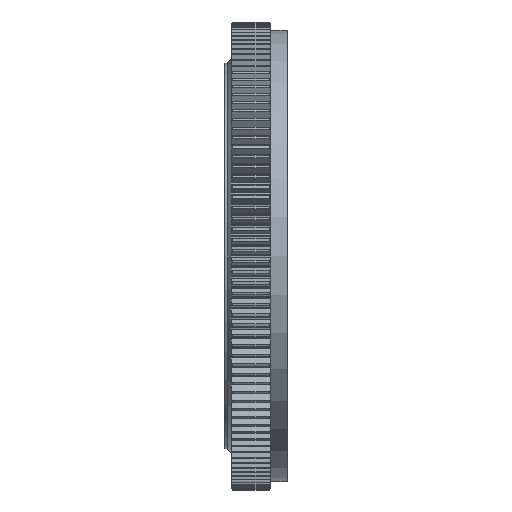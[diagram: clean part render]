
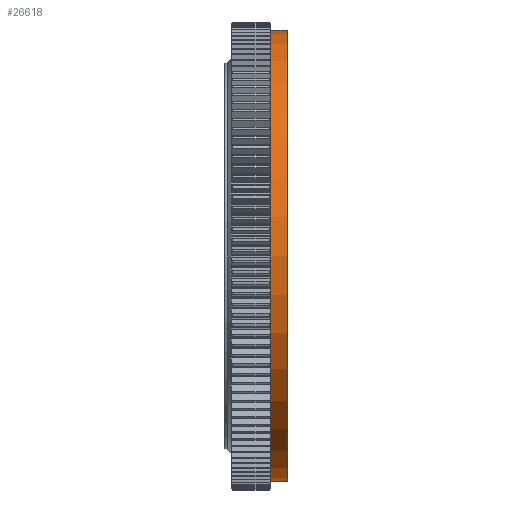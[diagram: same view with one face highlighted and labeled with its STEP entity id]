
A CAD part, left-side view. The second image highlights one B-rep face of the part: STEP entity #26618.
In plain terms, the highlighted cylindrical face has radius 335 mm (diameter 670 mm), a partial arc.
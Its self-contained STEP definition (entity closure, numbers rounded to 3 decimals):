
#2948 = AXIS2_PLACEMENT_3D ( 'NONE', #20541, #37821, #38031 ) ;
#4599 = EDGE_CURVE ( 'NONE', #31701, #36656, #34541, .T. ) ;
#6017 = EDGE_CURVE ( 'NONE', #28935, #17416, #19986, .T. ) ;
#7219 = EDGE_LOOP ( 'NONE', ( #35738, #9763, #30871, #33738 ) ) ;
#9763 = ORIENTED_EDGE ( 'NONE', *, *, #19012, .T. ) ;
#10205 = FACE_OUTER_BOUND ( 'NONE', #7219, .T. ) ;
#10503 = EDGE_CURVE ( 'NONE', #17416, #36656, #29810, .T. ) ;
#12249 = CARTESIAN_POINT ( 'NONE',  ( 0., -128.951, 0. ) ) ;
#17416 = VERTEX_POINT ( 'NONE', #32819 ) ;
#19012 = EDGE_CURVE ( 'NONE', #28935, #31701, #29518, .T. ) ;
#19986 = LINE ( 'NONE', #43566, #28844 ) ;
#20399 = DIRECTION ( 'NONE',  ( 0., -1., 0. ) ) ;
#20541 = CARTESIAN_POINT ( 'NONE',  ( 0., 0., 0. ) ) ;
#24551 = CYLINDRICAL_SURFACE ( 'NONE', #2948, 335. ) ;
#26618 = ADVANCED_FACE ( 'NONE', ( #10205 ), #24551, .T. ) ;
#28829 = DIRECTION ( 'NONE',  ( 0., -1., 0. ) ) ;
#28844 = VECTOR ( 'NONE', #32999, 1000. ) ;
#28935 = VERTEX_POINT ( 'NONE', #39674 ) ;
#29518 = CIRCLE ( 'NONE', #30971, 335. ) ;
#29810 = CIRCLE ( 'NONE', #35561, 335. ) ;
#30871 = ORIENTED_EDGE ( 'NONE', *, *, #4599, .T. ) ;
#30971 = AXIS2_PLACEMENT_3D ( 'NONE', #38042, #28829, #31968 ) ;
#31701 = VERTEX_POINT ( 'NONE', #32604 ) ;
#31968 = DIRECTION ( 'NONE',  ( 0., 0., -1. ) ) ;
#32604 = CARTESIAN_POINT ( 'NONE',  ( 0., -103.951, -335. ) ) ;
#32819 = CARTESIAN_POINT ( 'NONE',  ( 0., -128.951, 335. ) ) ;
#32999 = DIRECTION ( 'NONE',  ( 0., -1., 0. ) ) ;
#33738 = ORIENTED_EDGE ( 'NONE', *, *, #10503, .F. ) ;
#34541 = LINE ( 'NONE', #37442, #36616 ) ;
#35561 = AXIS2_PLACEMENT_3D ( 'NONE', #12249, #43007, #39407 ) ;
#35738 = ORIENTED_EDGE ( 'NONE', *, *, #6017, .F. ) ;
#36616 = VECTOR ( 'NONE', #20399, 1000. ) ;
#36656 = VERTEX_POINT ( 'NONE', #39068 ) ;
#37442 = CARTESIAN_POINT ( 'NONE',  ( 0., 0., -335. ) ) ;
#37821 = DIRECTION ( 'NONE',  ( 0., -1., 0. ) ) ;
#38031 = DIRECTION ( 'NONE',  ( 0., 0., -1. ) ) ;
#38042 = CARTESIAN_POINT ( 'NONE',  ( 0., -103.951, 0. ) ) ;
#39068 = CARTESIAN_POINT ( 'NONE',  ( 0., -128.951, -335. ) ) ;
#39407 = DIRECTION ( 'NONE',  ( 0., 0., -1. ) ) ;
#39674 = CARTESIAN_POINT ( 'NONE',  ( 0., -103.951, 335. ) ) ;
#43007 = DIRECTION ( 'NONE',  ( 0., -1., 0. ) ) ;
#43566 = CARTESIAN_POINT ( 'NONE',  ( 0., 0., 335. ) ) ;
